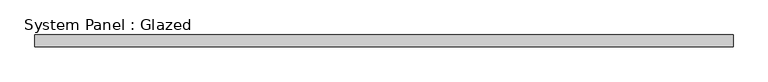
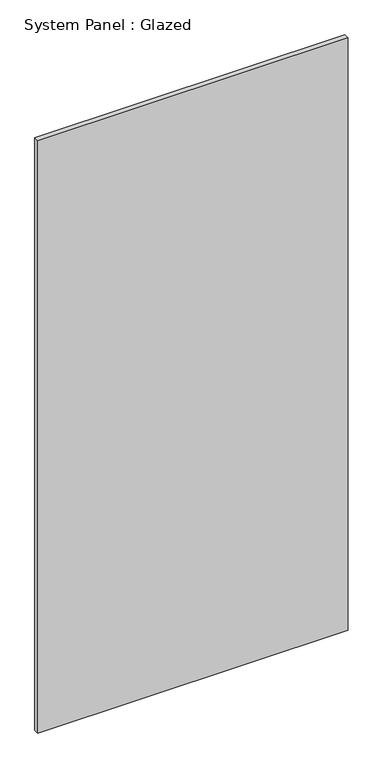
"""IFC4 building model written with IfcOpenShell, lengths in millimetres: plate geometry, System Panel : Glazed."""

import ifcopenshell
import ifcopenshell.guid

model = None  # the IFC model being written
_history = None  # IfcOwnerHistory: only IFC2X3 demands one
_inside = {}  # id of a spatial element -> (the spatial element, [elements in it])
_under = {}  # id of a project, library or spatial element -> (it, [spatial elements below it])
_declared = {}  # id of a project -> (the project, [libraries it declares])
_typed = {}  # id of a type object -> (the type object, [elements of that type])
_made_of = {}  # id of a material, layer set ... -> (it, [elements and type objects made of it])


def new_model(schema):
    """Start an empty IFC model of exactly this schema.

    Asked for "IFC4X3", IfcOpenShell would pick the latest addendum, in which some entities
    have other attributes; the version numbers below select the first issue.
    IFC2X3 requires an IfcOwnerHistory on every rooted entity: one is made here for all.
    """
    global model, _history
    if schema == "IFC4X3":
        model = ifcopenshell.file(schema_version=(4, 3, 0, 0))
    else:
        model = ifcopenshell.file(schema=schema)
    _inside.clear()
    _under.clear()
    _declared.clear()
    _typed.clear()
    _made_of.clear()
    _history = None
    if model.schema == "IFC2X3":
        org = make("IfcOrganization", Name="unknown")
        user = make(
            "IfcPersonAndOrganization",
            ThePerson=make("IfcPerson", FamilyName="unknown"),
            TheOrganization=org,
        )
        app = make(
            "IfcApplication",
            ApplicationDeveloper=org,
            Version="unknown",
            ApplicationFullName="unknown",
            ApplicationIdentifier="unknown",
        )
        _history = make(
            "IfcOwnerHistory",
            OwningUser=user,
            OwningApplication=app,
            ChangeAction="ADDED",
            CreationDate=0,
        )
    return model


def make(cls, **values):
    """One entity of the class cls with the attributes given. An attribute that is None is left unset."""
    return model.create_entity(
        cls, **{name: value for name, value in values.items() if value is not None}
    )


def rooted(cls, **values):
    """An entity with a GlobalId (a new one), such as an element, a storey or a relation."""
    return make(cls, GlobalId=ifcopenshell.guid.new(), OwnerHistory=_history, **values)


def si_unit(unit_type, name, prefix=None):
    """IfcSIUnit, for example si_unit("LENGTHUNIT", "METRE", prefix="MILLI")."""
    return make("IfcSIUnit", UnitType=unit_type, Prefix=prefix, Name=name)


def assignment(units):
    """IfcUnitAssignment: the units of a project."""
    return None if units is None else make("IfcUnitAssignment", Units=units)


def point(xyz):
    """IfcCartesianPoint."""
    return None if xyz is None else make("IfcCartesianPoint", Coordinates=xyz)


def direction(xyz):
    """IfcDirection."""
    return None if xyz is None else make("IfcDirection", DirectionRatios=xyz)


def frame(location, z_axis=None, x_axis=None):
    """IfcAxis2Placement3D, a coordinate frame: its origin and axes. An axis left out is left unset."""
    return make(
        "IfcAxis2Placement3D",
        Location=point(location),
        Axis=direction(z_axis),
        RefDirection=direction(x_axis),
    )


def origin():
    """The frame at (0, 0, 0) with its axes left unset."""
    return frame((0.0, 0.0, 0.0))


def origin_with_axes():
    """The frame at (0, 0, 0) with the z axis (0, 0, 1) and the x axis (1, 0, 0) written out."""
    return frame((0.0, 0.0, 0.0), z_axis=(0.0, 0.0, 1.0), x_axis=(1.0, 0.0, 0.0))


def place(relative_to, where):
    """IfcLocalPlacement: puts the frame where relative to a parent placement (None: the world)."""
    return make(
        "IfcLocalPlacement", PlacementRelTo=relative_to, RelativePlacement=where
    )


def context(
    kind, dimensions, precision=None, world=None, true_north=None, identifier=None
):
    """IfcGeometricRepresentationContext, for example the 3D "Model" context."""
    return make(
        "IfcGeometricRepresentationContext",
        ContextIdentifier=identifier,
        ContextType=kind,
        CoordinateSpaceDimension=dimensions,
        Precision=precision,
        WorldCoordinateSystem=world,
        TrueNorth=true_north,
    )


def project(units=None, contexts=None):
    """IfcProject with its units and contexts."""
    return rooted(
        "IfcProject",
        Name="project",
        RepresentationContexts=contexts,
        UnitsInContext=assignment(units),
    )


def spatial(cls, under=None, at=None, **own):
    """A site, building, storey or space (cls), placed at a placement, below another one or the project."""
    s = rooted(cls, ObjectPlacement=at, **own)
    if under is not None:
        _under.setdefault(under.id(), (under, []))[1].append(s)
    return s


def polyline(points):
    """IfcPolyline through the points."""
    return make("IfcPolyline", Points=[point(p) for p in points])


def outline(outer, holes=None, kind="AREA"):
    """IfcArbitraryClosedProfileDef: a profile drawn as a closed curve; with holes, ...WithVoids."""
    if holes is None:
        return make("IfcArbitraryClosedProfileDef", ProfileType=kind, OuterCurve=outer)
    return make(
        "IfcArbitraryProfileDefWithVoids",
        ProfileType=kind,
        OuterCurve=outer,
        InnerCurves=holes,
    )


def extrude(swept, where, along, depth):
    """IfcExtrudedAreaSolid: the profile swept, set in the frame where, extruded along a direction by depth."""
    return make(
        "IfcExtrudedAreaSolid",
        SweptArea=swept,
        Position=where,
        ExtrudedDirection=direction(along),
        Depth=depth,
    )


def shape(context_of_items, identifier, shape_type, items):
    """IfcShapeRepresentation: the items that make up one representation, for example the "Body"."""
    return make(
        "IfcShapeRepresentation",
        ContextOfItems=context_of_items,
        RepresentationIdentifier=identifier,
        RepresentationType=shape_type,
        Items=items,
    )


def source(mapping_origin, context_of_items, identifier, shape_type, items):
    """IfcRepresentationMap: a shape defined once, which mapped items show again and again."""
    return make(
        "IfcRepresentationMap",
        MappingOrigin=mapping_origin,
        MappedRepresentation=shape(context_of_items, identifier, shape_type, items),
    )


def transform(
    local_origin,
    x_axis=None,
    y_axis=None,
    z_axis=None,
    scale=None,
    scale2=None,
    scale3=None,
    uniform=True,
):
    """IfcCartesianTransformationOperator3D, or its non-uniform kind. x_axis, y_axis, z_axis: its Axis1, 2, 3."""
    if uniform:
        return make(
            "IfcCartesianTransformationOperator3D",
            Axis1=direction(x_axis),
            Axis2=direction(y_axis),
            LocalOrigin=point(local_origin),
            Scale=scale,
            Axis3=direction(z_axis),
        )
    return make(
        "IfcCartesianTransformationOperator3DnonUniform",
        Axis1=direction(x_axis),
        Axis2=direction(y_axis),
        LocalOrigin=point(local_origin),
        Scale=scale,
        Axis3=direction(z_axis),
        Scale2=scale2,
        Scale3=scale3,
    )


def mapped(mapping_source, mapping_target):
    """IfcMappedItem: shows the shape of a source again, moved by a transform."""
    return make(
        "IfcMappedItem", MappingSource=mapping_source, MappingTarget=mapping_target
    )


def made_of(thing, what):
    """Note that an element or type object is made of a material, layer set ...; save() writes the relation."""
    if what is not None:
        _made_of.setdefault(what.id(), (what, []))[1].append(thing)
    return thing


def element(
    cls,
    number,
    at=None,
    inside=None,
    cuts=None,
    type_object=None,
    material=None,
    context=None,
    identifier="Body",
    shape_type=None,
    held_by="IfcProductDefinitionShape",
    body=None,
    shapes=None,
    **own,
):
    """One element of the class cls, such as IfcWall. Its Tag is "e" and its number.

    at: its placement. inside: the storey or other place that contains it. cuts: it is an
    opening in that element (IfcRelVoidsElement). A single representation is given by context,
    identifier, shape_type and body (its items); several are given by shapes. held_by: the class
    of the entity that holds the representations. save() writes the other relations.
    """
    e = rooted(cls, Tag="e%d" % number, ObjectPlacement=at, **own)
    if body is not None:
        shapes = [shape(context, identifier, shape_type, body)]
    if shapes is not None:
        e.Representation = make(held_by, Representations=shapes)
    if inside is not None:
        _inside.setdefault(inside.id(), (inside, []))[1].append(e)
    if cuts is not None:
        rooted(
            "IfcRelVoidsElement", RelatingBuildingElement=cuts, RelatedOpeningElement=e
        )
    if type_object is not None:
        _typed.setdefault(type_object.id(), (type_object, []))[1].append(e)
    return made_of(e, material)


def aggregate(whole, parts):
    """IfcRelAggregates: a whole, such as a stair, and the parts it consists of."""
    return rooted("IfcRelAggregates", RelatingObject=whole, RelatedObjects=parts)


def save(model, path):
    """Write the relations noted so far, then the file.

    IfcRelAggregates (storeys below a building ...), IfcRelContainedInSpatialStructure (elements
    in a storey), IfcRelDefinesByType, IfcRelAssociatesMaterial and IfcRelDeclares: one each for
    every whole, place, type object, material and project.
    """
    for whole, parts in _under.values():
        aggregate(whole, parts)
    for where, things in _inside.values():
        rooted(
            "IfcRelContainedInSpatialStructure",
            RelatedElements=things,
            RelatingStructure=where,
        )
    for kind, things in _typed.values():
        rooted("IfcRelDefinesByType", RelatedObjects=things, RelatingType=kind)
    for what, things in _made_of.values():
        rooted("IfcRelAssociatesMaterial", RelatedObjects=things, RelatingMaterial=what)
    for by, libraries in _declared.values():
        rooted("IfcRelDeclares", RelatingContext=by, RelatedDefinitions=libraries)
    model.write(path)


def system_panel_glazed_37964ea6(model_context):
    return source(origin(), model_context, "Body", "SweptSolid", [
        extrude(outline(polyline([(749.3, -44.45), (-749.3, -44.45), (-749.3, -19.05), (749.3, -19.05), (749.3, -44.45)])), origin_with_axes(), (0.0, 0.0, 1.0), 3022.6),
    ])


if __name__ == "__main__":
    model = new_model("IFC4")
    model_context = context("Model", 3, world=origin())
    ifc_project = project(units=[si_unit("LENGTHUNIT", "METRE", prefix="MILLI")], contexts=[model_context])
    site = spatial("IfcSite", under=ifc_project)
    building = spatial("IfcBuilding", under=site)
    placement = place(None, origin())
    system_panel_glazed_shape = system_panel_glazed_37964ea6(model_context)
    element("IfcPlate", 1, ObjectType="System Panel : Glazed", at=placement, inside=building, context=model_context, shape_type="MappedRepresentation", body=[
        mapped(system_panel_glazed_shape, transform((0.0, 0.0, 0.0), x_axis=(1.0, 0.0, 0.0), y_axis=(0.0, 1.0, 0.0), z_axis=(0.0, 0.0, 1.0))),
    ])
    save(model, "model.ifc")
